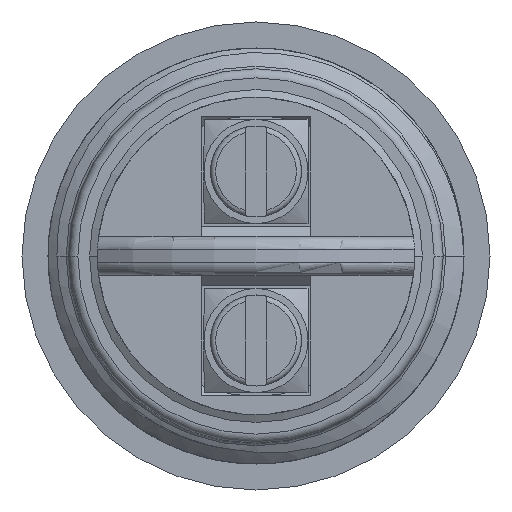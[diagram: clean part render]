
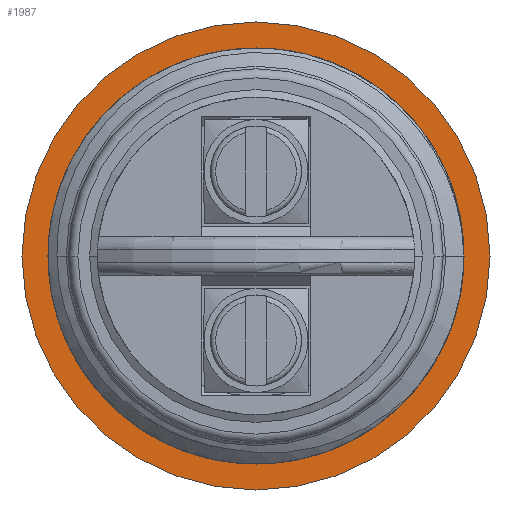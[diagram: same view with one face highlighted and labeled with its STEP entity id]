
A CAD part, front view. The second image highlights one B-rep face of the part: STEP entity #1987.
In plain terms, the highlighted planar face has unit normal (0, -1, 0).
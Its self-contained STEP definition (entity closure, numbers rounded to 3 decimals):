
#47=CARTESIAN_POINT('',(0.,0.,0.));
#48=DIRECTION('',(0.,1.,0.));
#49=DIRECTION('',(-1.,0.,0.));
#50=AXIS2_PLACEMENT_3D('',#47,#48,#49);
#52=CARTESIAN_POINT('',(0.,0.,0.));
#53=DIRECTION('',(0.,-1.,0.));
#54=DIRECTION('',(-1.,0.,0.));
#55=AXIS2_PLACEMENT_3D('',#52,#53,#54);
#83=CARTESIAN_POINT('',(0.,0.,0.));
#84=DIRECTION('',(0.,-1.,0.));
#85=DIRECTION('',(-1.,0.,0.));
#86=AXIS2_PLACEMENT_3D('',#83,#84,#85);
#568=CARTESIAN_POINT('',(0.,0.,0.));
#569=DIRECTION('',(0.,1.,0.));
#570=DIRECTION('',(-1.,0.,0.));
#571=AXIS2_PLACEMENT_3D('',#568,#569,#570);
#1808=CARTESIAN_POINT('',(-9.,0.,0.));
#1809=CARTESIAN_POINT('',(9.,0.,0.));
#1810=VERTEX_POINT('',#1808);
#1811=VERTEX_POINT('',#1809);
#1851=CARTESIAN_POINT('',(-8.,0.,0.));
#1853=VERTEX_POINT('',#1851);
#1896=CARTESIAN_POINT('',(8.,0.,0.));
#1897=VERTEX_POINT('',#1896);
#1972=CARTESIAN_POINT('',(0.,0.,0.));
#1973=DIRECTION('',(0.,-1.,0.));
#1974=DIRECTION('',(-1.,0.,0.));
#1975=AXIS2_PLACEMENT_3D('',#1972,#1973,#1974);
#1976=PLANE('',#1975);
#1977=ORIENTED_EDGE('',*,*,#1939,.T.);
#1978=ORIENTED_EDGE('',*,*,#1954,.F.);
#1979=EDGE_LOOP('',(#1977,#1978));
#1980=FACE_OUTER_BOUND('',#1979,.F.);
#1982=ORIENTED_EDGE('',*,*,#1981,.T.);
#1984=ORIENTED_EDGE('',*,*,#1983,.F.);
#1985=EDGE_LOOP('',(#1982,#1984));
#1986=FACE_BOUND('',#1985,.F.);
#1987=ADVANCED_FACE('',(#1980,#1986),#1976,.T.);
#51=CIRCLE('',#50,9.);
#56=CIRCLE('',#55,9.);
#87=CIRCLE('',#86,8.);
#572=CIRCLE('',#571,8.);
#1939=EDGE_CURVE('',#1810,#1811,#51,.T.);
#1954=EDGE_CURVE('',#1810,#1811,#56,.T.);
#1981=EDGE_CURVE('',#1853,#1897,#87,.T.);
#1983=EDGE_CURVE('',#1853,#1897,#572,.T.);
